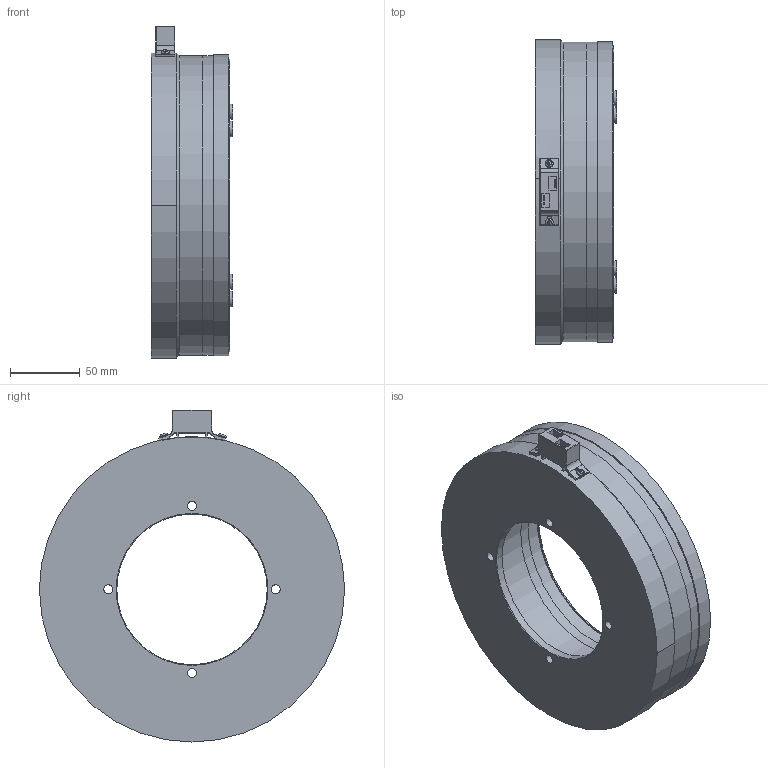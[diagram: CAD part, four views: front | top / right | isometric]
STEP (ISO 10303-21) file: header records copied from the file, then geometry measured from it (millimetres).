
FILE_DESCRIPTION(/* description */ (''),/* implementation_level */ '2;1');
FILE_NAME(/* name */ 'X:\INVENTOR\DISEGNI\08_Freni_Friz_Elettmag_Monodisco\08_28 EMFL_DF\EMFL_DF STEP\08_28_210_11 EMFL210_DF-B@STEP.stp',/* time_stamp */ '2018-04-23T15:59:43+02:00',/* author */ ('stefano'),/* organization */ (''),/* preprocessor_version */ 'ST-DEVELOPER v17',/* originating_system */ 'Autodesk Inventor 2018',/* authorisation */ '');
FILE_SCHEMA (('AUTOMOTIVE_DESIGN { 1 0 10303 214 3 1 1 }'));
Length unit declared in the file: millimetre
Products named in the file (1): 08_28_210_11 EMFL210_DF-B - Spina_Substitute_1
Bounding box: 58.5 x 219 x 238.25 mm (x, y, z)
Volume: 1043110.7 mm3; surface area: 247282.9 mm2
Topology: 1 solids, 1 shells, 407 faces, 1224 edges, 759 vertices
Faces by surface type: cylinder 229, plane 101, torus 30, cone 27, sphere 20
Full cylindrical faces by diameter (mm): 5.6 x2, 6 x1, 6.5 x4, 7 x8, 8.1 x4, 11 x8, 13 x8, 108 x1, 132 x2, 134 x1, 136 x1, 154.5 x1, 164 x2, 192 x2, 198.5 x1, 210 x1, 215 x2, 216 x1
Entity records: 14993 total; most frequent: CARTESIAN_POINT 2912, DIRECTION 2725, ORIENTED_EDGE 2410, EDGE_CURVE 1205, AXIS2_PLACEMENT_3D 1167, CIRCLE 759, VERTEX_POINT 759, EDGE_LOOP 486
